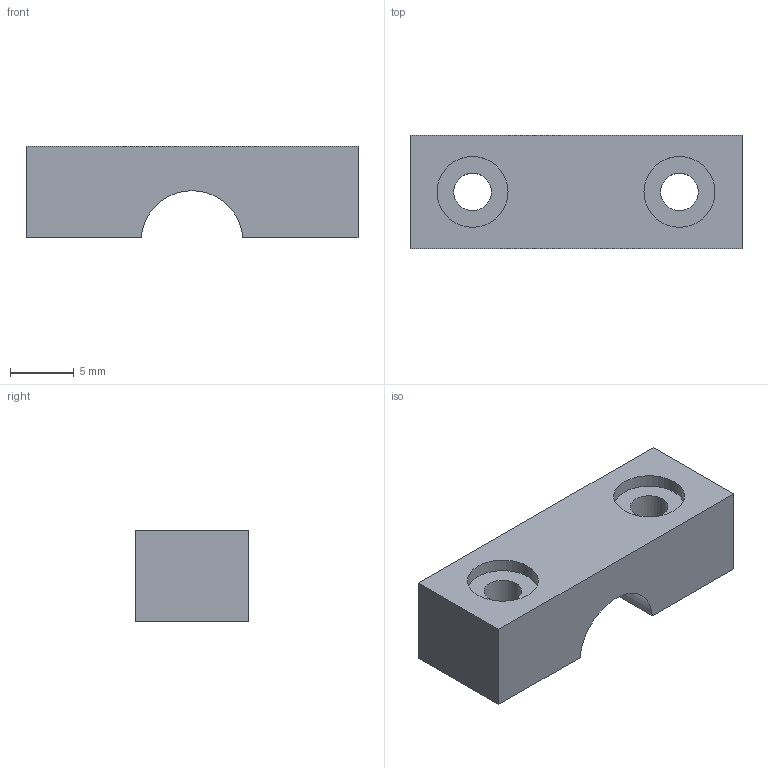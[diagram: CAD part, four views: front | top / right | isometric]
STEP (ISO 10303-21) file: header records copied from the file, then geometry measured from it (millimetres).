
FILE_DESCRIPTION(('FreeCAD Model'),'2;1');
FILE_NAME('/home/ricardo/FreeCAD/myPrinter/FreeCAD/y_axis_body_screw_holder.step', '2015-01-03T07:07:49',('Author'),(''), 'Open CASCADE STEP processor 6.7','FreeCAD','Unknown');
FILE_SCHEMA(('AUTOMOTIVE_DESIGN_CC2 { 1 2 10303 214 -1 1 5 4 }'));
Length unit declared in the file: millimetre
Products named in the file (1): y_axis_body_screw
Bounding box: 26 x 8.9 x 7.2 mm (x, y, z)
Volume: 1330.6 mm3; surface area: 1077.8 mm2
Topology: 1 solids, 1 shells, 14 faces, 30 edges, 20 vertices
Faces by surface type: plane 9, cylinder 5
Full cylindrical faces by diameter (mm): 2.95 x2, 5.55 x2
Entity records: 821 total; most frequent: CARTESIAN_POINT 161, DIRECTION 124, LINE 70, VECTOR 70, ORIENTED_EDGE 60, PCURVE 60, DEFINITIONAL_REPRESENTATION 60, EDGE_CURVE 30
